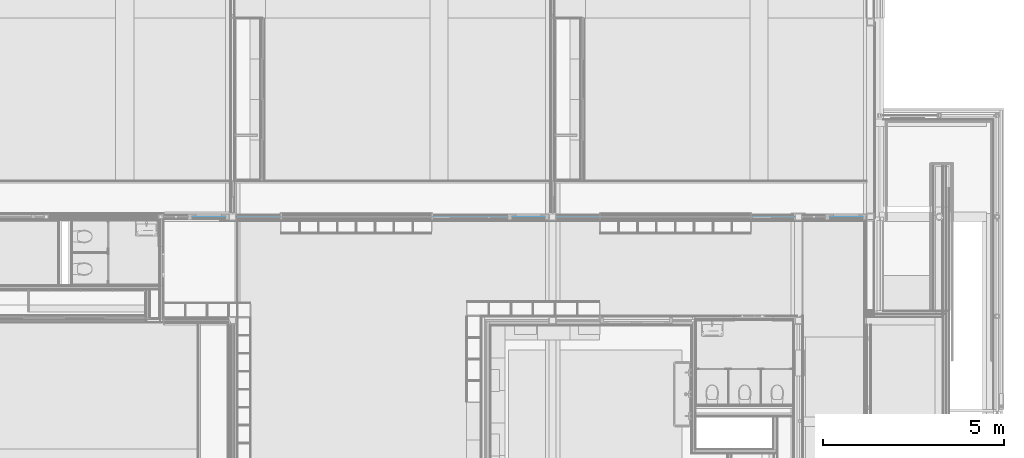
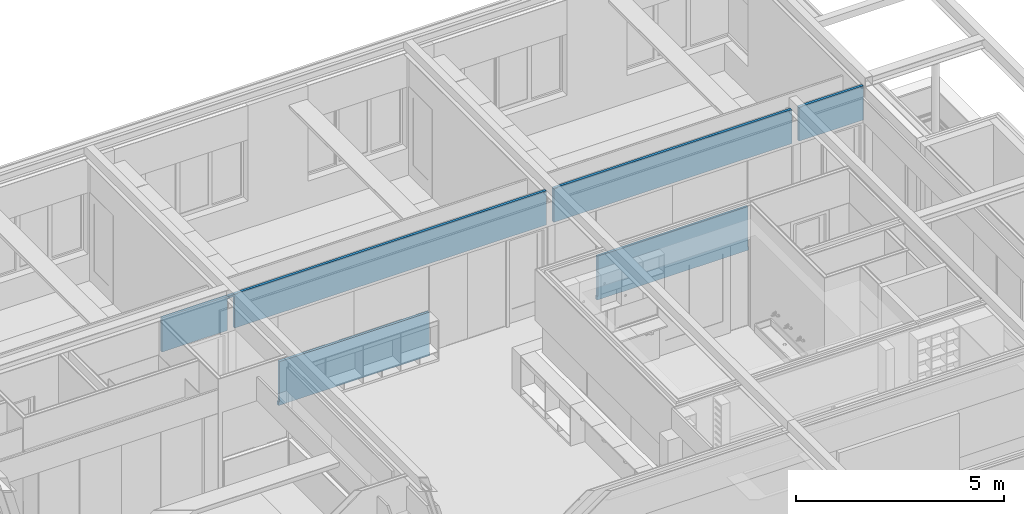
# One storey, part 49 of 137: 1 building element part, 14 openings, 1 element without a shape of its own.
"""IFC2X3 building model written with IfcOpenShell, lengths in millimetres."""

from ifc_helpers import new_model, entity, si_unit, converted_unit, derived_unit, money_unit, direction, frame, origin_with_axes, place, context, subcontext, project, spatial, faceted_brep, material, type_object, element, aggregate, save


model = new_model("IFC2X3")

# Units and contexts
model_context = context("Model", 3, precision=0.01, world=origin_with_axes(), true_north=direction((0.0, 1.0)))
body_context = subcontext(model_context, "Body", "Model", "MODEL_VIEW")
ifc_project = project(units=[si_unit("LENGTHUNIT", "METRE", prefix="MILLI"), si_unit("AREAUNIT", "SQUARE_METRE"), si_unit("VOLUMEUNIT", "CUBIC_METRE"), converted_unit("PLANEANGLEUNIT", "DEGREE", entity("IfcPlaneAngleMeasure", 0.0174532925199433), si_unit("PLANEANGLEUNIT", "RADIAN"), dimensions=[0, 0, 0, 0, 0, 0, 0]), money_unit("EUR"), converted_unit("TIMEUNIT", "Year", entity("IfcTimeMeasure", 31556926.0), si_unit("TIMEUNIT", "SECOND"), dimensions=[0, 0, 1, 0, 0, 0, 0]), si_unit("MASSUNIT", "GRAM", prefix="KILO"), si_unit("THERMODYNAMICTEMPERATUREUNIT", "DEGREE_CELSIUS"), si_unit("LUMINOUSINTENSITYUNIT", "LUMEN"), si_unit("ENERGYUNIT", "JOULE", prefix="MEGA"), derived_unit("THERMALCONDUCTANCEUNIT", [(si_unit("POWERUNIT", "WATT"), 1), (si_unit("LENGTHUNIT", "METRE"), -1), (si_unit("THERMODYNAMICTEMPERATUREUNIT", "KELVIN"), -1)]), derived_unit("SPECIFICHEATCAPACITYUNIT", [(si_unit("ENERGYUNIT", "JOULE"), 1), (si_unit("MASSUNIT", "GRAM", prefix="KILO"), -1), (si_unit("THERMODYNAMICTEMPERATUREUNIT", "KELVIN"), -1)]), derived_unit("MASSDENSITYUNIT", [(si_unit("MASSUNIT", "GRAM", prefix="KILO"), 1), (si_unit("VOLUMEUNIT", "CUBIC_METRE"), -1)])], contexts=[model_context])

# Site, building, storey
site_placement = place(None, origin_with_axes())
site = spatial("IfcSite", under=ifc_project, at=site_placement, Name="Site", CompositionType="ELEMENT")
building_placement = place(site_placement, origin_with_axes())
building = spatial("IfcBuilding", under=site, at=building_placement, Name="Naam gebouw", CompositionType="ELEMENT")
storey_placement = place(building_placement, frame((0.0, 0.0, 3960.0), z_axis=(0.0, 0.0, 1.0), x_axis=(1.0, 0.0, 0.0)))
storey = spatial("IfcBuildingStorey", under=building, at=storey_placement, Name="1e verdieping", CompositionType="ELEMENT", Elevation=3960.0)

# Proxy, openings, building element part
building_element_proxy_type = type_object("IfcBuildingElementProxyType", Name="22 Metal stud 125 gips 125", PredefinedType="NOTDEFINED")
proxy_placement = place(storey_placement, frame((6940.0, 22324.97621406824, -100.0000000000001), z_axis=(0.0, 0.0, 1.0), x_axis=(1.0, 0.0, 0.0)))
proxy = element("IfcBuildingElementProxy", 1, at=proxy_placement, inside=storey, type_object=building_element_proxy_type, Name="_Wand-x")
opening_1_placement = place(proxy_placement, frame((16859.99903999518, 0.0, 100.0000000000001), z_axis=(0.0, 0.0, 1.0), x_axis=(1.0, 0.0, 0.0)))
element("IfcOpeningElement", 2, at=opening_1_placement, cuts=proxy, Name="_B.01", context=body_context, shape_type="Brep", body=[
    faceted_brep([(599.9999999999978, -12.49999999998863, -100.0000000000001), (599.9999999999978, -12.49999999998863, 2600.0), (599.9999999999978, -63.49999999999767, 2600.0), (599.9999999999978, -63.49999999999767, -100.0000000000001), (599.9999999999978, 63.50000000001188, -100.0000000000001), (599.9999999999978, 63.50000000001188, 2600.0), (-599.9999999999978, -12.49999999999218, 2600.0), (-599.9999999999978, -63.50000000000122, 2600.0), (-599.9999999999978, 63.50000000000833, 2600.0), (-599.9999999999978, -63.50000000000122, -100.0000000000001), (-599.9999999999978, -12.49999999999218, -100.0000000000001), (-599.9999999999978, 63.50000000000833, -100.0000000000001)], [[[0, 1, 2, 3]], [[1, 0, 4, 5]], [[6, 7, 2, 1, 5, 8]], [[7, 9, 3, 2]], [[0, 3, 9, 10, 11, 4]], [[5, 4, 11, 8]], [[6, 10, 9, 7]], [[10, 6, 8, 11]]]),
])
opening_2_placement = place(proxy_placement, frame((11459.99903999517, 0.0, 100.0000000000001), z_axis=(0.0, 0.0, 1.0), x_axis=(1.0, 0.0, 0.0)))
element("IfcOpeningElement", 3, at=opening_2_placement, cuts=proxy, Name="_B.01", context=body_context, shape_type="Brep", body=[
    faceted_brep([(600.0000000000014, -12.49999999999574, -100.0000000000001), (600.0000000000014, -12.49999999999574, 2600.0), (600.0000000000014, -63.50000000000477, 2600.0), (600.0000000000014, -63.50000000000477, -100.0000000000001), (600.0000000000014, 63.50000000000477, -100.0000000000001), (600.0000000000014, 63.50000000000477, 2600.0), (-600.0000000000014, -12.49999999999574, 2600.0), (-600.0000000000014, -63.50000000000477, 2600.0), (-600.0000000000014, 63.50000000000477, 2600.0), (-600.0000000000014, -63.50000000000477, -100.0000000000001), (-600.0000000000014, -12.49999999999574, -100.0000000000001), (-600.0000000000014, 63.50000000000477, -100.0000000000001)], [[[0, 1, 2, 3]], [[1, 0, 4, 5]], [[6, 7, 2, 1, 5, 8]], [[7, 9, 3, 2]], [[0, 3, 9, 10, 11, 4]], [[5, 4, 11, 8]], [[6, 10, 9, 7]], [[10, 6, 8, 11]]]),
])
opening_3_placement = place(proxy_placement, frame((7954.999824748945, 0.0, 100.0000000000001), z_axis=(0.0, 0.0, 1.0), x_axis=(1.0, 0.0, 0.0)))
element("IfcOpeningElement", 4, at=opening_3_placement, cuts=proxy, Name="_B.06", context=body_context, shape_type="Brep", body=[
    faceted_brep([(524.9998247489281, -12.49999999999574, -100.0000000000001), (524.9998247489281, -12.49999999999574, 2600.0), (524.9998247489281, -63.50000000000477, 2600.0), (524.9998247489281, -63.50000000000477, -100.0000000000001), (524.9998247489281, 63.50000000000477, -100.0000000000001), (524.9998247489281, 63.50000000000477, 2600.0), (-524.9998247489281, -12.49999999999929, 2600.0), (-524.9998247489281, -63.50000000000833, 2600.0), (-524.9998247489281, 63.50000000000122, 2600.0), (-524.9998247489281, -63.50000000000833, -100.0000000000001), (-524.9998247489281, -12.49999999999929, -100.0000000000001), (-524.9998247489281, 63.50000000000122, -100.0000000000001)], [[[0, 1, 2, 3]], [[1, 0, 4, 5]], [[6, 7, 2, 1, 5, 8]], [[7, 9, 3, 2]], [[0, 3, 9, 10, 11, 4]], [[5, 4, 11, 8]], [[6, 10, 9, 7]], [[10, 6, 8, 11]]]),
])
opening_4_placement = place(proxy_placement, frame((15209.99903999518, 0.0, 1300.0), z_axis=(0.0, 0.0, 1.0), x_axis=(1.0, 0.0, 0.0)))
element("IfcOpeningElement", 5, at=opening_4_placement, cuts=proxy, Name="_C.01", context=body_context, shape_type="Brep", body=[
    faceted_brep([(1050.000000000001, -12.49999999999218, 0.0), (1050.000000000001, -12.49999999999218, 1400.0), (1050.000000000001, -63.50000000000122, 1400.0), (1050.000000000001, -63.50000000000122, 0.0), (1050.000000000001, 63.50000000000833, 0.0), (1050.000000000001, 63.50000000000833, 1400.0), (-1050.000000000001, -12.49999999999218, 1400.0), (-1050.000000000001, -63.50000000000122, 1400.0), (-1050.000000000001, 63.50000000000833, 1400.0), (-1050.000000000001, -63.50000000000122, 0.0), (-1050.000000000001, -12.49999999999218, 0.0), (-1050.000000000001, 63.50000000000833, 0.0)], [[[0, 1, 2, 3]], [[1, 0, 4, 5]], [[6, 7, 2, 1, 5, 8]], [[7, 9, 3, 2]], [[0, 3, 9, 10, 11, 4]], [[5, 4, 11, 8]], [[6, 10, 9, 7]], [[10, 6, 8, 11]]]),
])
opening_5_placement = place(proxy_placement, frame((2620.000000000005, 0.0, 100.0000000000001), z_axis=(0.0, 0.0, 1.0), x_axis=(1.0, 0.0, 0.0)))
element("IfcOpeningElement", 6, at=opening_5_placement, cuts=proxy, Name="_B.03", context=body_context, shape_type="Brep", body=[
    faceted_brep([(610.0000000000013, -12.49999999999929, -100.0000000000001), (610.0000000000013, -12.49999999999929, 2600.0), (610.0000000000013, -63.50000000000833, 2600.0), (610.0000000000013, -63.50000000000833, -100.0000000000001), (610.0000000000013, 63.50000000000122, -100.0000000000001), (610.0000000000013, 63.50000000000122, 2600.0), (-610.0000000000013, -12.49999999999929, 2600.0), (-610.0000000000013, -63.50000000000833, 2600.0), (-610.0000000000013, 63.50000000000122, 2600.0), (-610.0000000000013, -63.50000000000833, -100.0000000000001), (-610.0000000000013, -12.49999999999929, -100.0000000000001), (-610.0000000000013, 63.50000000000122, -100.0000000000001)], [[[0, 1, 2, 3]], [[1, 0, 4, 5]], [[6, 7, 2, 1, 5, 8]], [[7, 9, 3, 2]], [[0, 3, 9, 10, 11, 4]], [[5, 4, 11, 8]], [[6, 10, 9, 7]], [[10, 6, 8, 11]]]),
])
opening_6_placement = place(proxy_placement, frame((6380.000000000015, 0.0, 1300.0), z_axis=(0.0, 0.0, 1.0), x_axis=(1.0, 0.0, 0.0)))
element("IfcOpeningElement", 7, at=opening_6_placement, cuts=proxy, Name="_C.01", context=body_context, shape_type="Brep", body=[
    faceted_brep([(1050.000000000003, -12.49999999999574, 0.0), (1050.000000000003, -12.49999999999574, 1400.0), (1050.000000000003, -63.50000000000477, 1400.0), (1050.000000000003, -63.50000000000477, 0.0), (1050.000000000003, 63.50000000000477, 0.0), (1050.000000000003, 63.50000000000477, 1400.0), (-1050.000000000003, -12.49999999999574, 1400.0), (-1050.000000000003, -63.50000000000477, 1400.0), (-1050.000000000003, 63.50000000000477, 1400.0), (-1050.000000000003, -63.50000000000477, 0.0), (-1050.000000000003, -12.49999999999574, 0.0), (-1050.000000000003, 63.50000000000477, 0.0)], [[[0, 1, 2, 3]], [[1, 0, 4, 5]], [[6, 7, 2, 1, 5, 8]], [[7, 9, 3, 2]], [[0, 3, 9, 10, 11, 4]], [[5, 4, 11, 8]], [[6, 10, 9, 7]], [[10, 6, 8, 11]]]),
])
opening_7_placement = place(proxy_placement, frame((4279.999712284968, 0.0, 1300.0), z_axis=(0.0, 0.0, 1.0), x_axis=(1.0, 0.0, 0.0)))
element("IfcOpeningElement", 8, at=opening_7_placement, cuts=proxy, Name="_C.01", context=body_context, shape_type="Brep", body=[
    faceted_brep([(1049.999712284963, -12.49999999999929, 0.0), (1049.999712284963, -12.49999999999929, 1400.0), (1049.999712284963, -63.50000000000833, 1400.0), (1049.999712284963, -63.50000000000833, 0.0), (1049.999712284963, 63.50000000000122, 0.0), (1049.999712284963, 63.50000000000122, 1400.0), (-1049.999712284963, -12.49999999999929, 1400.0), (-1049.999712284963, -63.50000000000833, 1400.0), (-1049.999712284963, 63.50000000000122, 1400.0), (-1049.999712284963, -63.50000000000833, 0.0), (-1049.999712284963, -12.49999999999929, 0.0), (-1049.999712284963, 63.50000000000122, 0.0)], [[[0, 1, 2, 3]], [[1, 0, 4, 5]], [[6, 7, 2, 1, 5, 8]], [[7, 9, 3, 2]], [[0, 3, 9, 10, 11, 4]], [[5, 4, 11, 8]], [[6, 10, 9, 7]], [[10, 6, 8, 11]]]),
])
opening_8_placement = place(proxy_placement, frame((9004.999474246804, 0.0, 100.0000000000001), z_axis=(0.0, 0.0, 1.0), x_axis=(1.0, 0.0, 0.0)))
element("IfcOpeningElement", 9, at=opening_8_placement, cuts=proxy, Name="_B.06", context=body_context, shape_type="Brep", body=[
    faceted_brep([(524.9998247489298, -12.49999999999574, -100.0000000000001), (524.9998247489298, -12.49999999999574, 2600.0), (524.9998247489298, -63.50000000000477, 2600.0), (524.9998247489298, -63.50000000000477, -100.0000000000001), (524.9998247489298, 63.50000000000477, -100.0000000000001), (524.9998247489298, 63.50000000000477, 2600.0), (-524.9998247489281, -12.49999999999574, 2600.0), (-524.9998247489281, -63.50000000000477, 2600.0), (-524.9998247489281, 63.50000000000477, 2600.0), (-524.9998247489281, -63.50000000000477, -100.0000000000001), (-524.9998247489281, -12.49999999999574, -100.0000000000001), (-524.9998247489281, 63.50000000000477, -100.0000000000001)], [[[0, 1, 2, 3]], [[1, 0, 4, 5]], [[6, 7, 2, 1, 5, 8]], [[7, 9, 3, 2]], [[0, 3, 9, 10, 11, 4]], [[5, 4, 11, 8]], [[6, 10, 9, 7]], [[10, 6, 8, 11]]]),
])
opening_9_placement = place(proxy_placement, frame((17987.99950490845, 0.0, 100.0000000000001), z_axis=(0.0, 0.0, 1.0), x_axis=(1.0, 0.0, 0.0)))
element("IfcOpeningElement", 10, at=opening_9_placement, cuts=proxy, Name="_B.09", context=body_context, shape_type="Brep", body=[
    faceted_brep([(-328.0004950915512, 12.50000000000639, -100.0000000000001), (-328.0004950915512, 12.50000000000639, 2600.0), (-328.0004950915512, 63.50000000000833, 2600.0), (-328.0004950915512, 63.50000000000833, -100.0000000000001), (-328.0004950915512, -63.50000000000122, -100.0000000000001), (-328.0004950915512, -63.50000000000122, 2600.0), (328.0004950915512, 12.50000000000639, 2600.0), (328.0004950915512, 63.50000000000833, 2600.0), (328.0004950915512, -63.50000000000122, 2600.0), (328.0004950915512, 63.50000000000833, -100.0000000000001), (328.0004950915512, 12.50000000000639, -100.0000000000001), (328.0004950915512, -63.50000000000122, -100.0000000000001)], [[[0, 1, 2, 3]], [[1, 0, 4, 5]], [[6, 7, 2, 1, 5, 8]], [[7, 9, 3, 2]], [[0, 3, 9, 10, 11, 4]], [[5, 4, 11, 8]], [[6, 10, 9, 7]], [[10, 6, 8, 11]]]),
])
opening_10_placement = place(proxy_placement, frame((18881.0, 0.0, 100.0000000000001), z_axis=(0.0, 0.0, 1.0), x_axis=(1.0, 0.0, 0.0)))
element("IfcOpeningElement", 11, at=opening_10_placement, cuts=proxy, Name="_01.01", context=body_context, shape_type="Brep", body=[
    faceted_brep([(-565.0000000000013, -63.50000000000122, 2600.0), (-565.0000000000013, -63.50000000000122, -100.0000000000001), (565.0000000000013, -63.50000000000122, -100.0000000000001), (565.0000000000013, -63.50000000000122, 2600.0), (-565.0000000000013, 63.50000000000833, 2600.0), (-565.0000000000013, 63.50000000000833, -100.0000000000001), (565.0000000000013, 63.50000000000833, -100.0000000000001), (565.0000000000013, 63.50000000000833, 2600.0)], [[[0, 1, 2, 3]], [[4, 5, 1, 0]], [[5, 6, 2, 1]], [[6, 7, 3, 2]], [[7, 4, 0, 3]], [[6, 5, 4, 7]]]),
])
opening_11_placement = place(proxy_placement, frame((339.9999604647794, 0.0, 100.0000000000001), z_axis=(0.0, 0.0, 1.0), x_axis=(1.0, 0.0, 0.0)))
element("IfcOpeningElement", 12, at=opening_11_placement, cuts=proxy, Name="_B.07", context=body_context, shape_type="Brep", body=[
    faceted_brep([(-339.9999604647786, 12.49999999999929, -100.0000000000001), (-339.9999604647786, 12.49999999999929, 2600.0), (-339.9999604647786, 63.50000000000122, 2600.0), (-339.9999604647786, 63.50000000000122, -100.0000000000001), (-339.9999604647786, -63.50000000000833, -100.0000000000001), (-339.9999604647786, -63.50000000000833, 2600.0), (339.9999604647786, 12.49999999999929, 2600.0), (339.9999604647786, 63.50000000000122, 2600.0), (339.9999604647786, -63.50000000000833, 2600.0), (339.9999604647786, 63.50000000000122, -100.0000000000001), (339.9999604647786, 12.49999999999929, -100.0000000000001), (339.9999604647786, -63.50000000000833, -100.0000000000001)], [[[0, 1, 2, 3]], [[1, 0, 4, 5]], [[6, 7, 2, 1, 5, 8]], [[7, 9, 3, 2]], [[0, 3, 9, 10, 11, 4]], [[5, 4, 11, 8]], [[6, 10, 9, 7]], [[10, 6, 8, 11]]]),
])
opening_12_placement = place(proxy_placement, frame((10094.99929899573, 0.0, 100.0000000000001), z_axis=(0.0, 0.0, 1.0), x_axis=(1.0, 0.0, 0.0)))
element("IfcOpeningElement", 13, at=opening_12_placement, cuts=proxy, Name="_01.01", context=body_context, shape_type="Brep", body=[
    faceted_brep([(-565.0000000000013, -63.50000000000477, 2600.0), (-565.0000000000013, -63.50000000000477, -100.0000000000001), (565.0000000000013, -63.50000000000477, -100.0000000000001), (565.0000000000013, -63.50000000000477, 2600.0), (-565.0000000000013, 63.50000000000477, 2600.0), (-565.0000000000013, 63.50000000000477, -100.0000000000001), (565.0000000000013, 63.50000000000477, -100.0000000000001), (565.0000000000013, 63.50000000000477, 2600.0)], [[[0, 1, 2, 3]], [[4, 5, 1, 0]], [[5, 6, 2, 1]], [[6, 7, 3, 2]], [[7, 4, 0, 3]], [[6, 5, 4, 7]]]),
])
opening_13_placement = place(proxy_placement, frame((13109.99903999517, 0.0, 1300.0), z_axis=(0.0, 0.0, 1.0), x_axis=(1.0, 0.0, 0.0)))
element("IfcOpeningElement", 14, at=opening_13_placement, cuts=proxy, Name="_C.01", context=body_context, shape_type="Brep", body=[
    faceted_brep([(1050.000000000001, -12.49999999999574, 0.0), (1050.000000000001, -12.49999999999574, 1400.0), (1050.000000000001, -63.50000000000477, 1400.0), (1050.000000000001, -63.50000000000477, 0.0), (1050.000000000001, 63.50000000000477, 0.0), (1050.000000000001, 63.50000000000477, 1400.0), (-1050.000000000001, -12.49999999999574, 1400.0), (-1050.000000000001, -63.50000000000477, 1400.0), (-1050.000000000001, 63.50000000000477, 1400.0), (-1050.000000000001, -63.50000000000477, 0.0), (-1050.000000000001, -12.49999999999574, 0.0), (-1050.000000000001, 63.50000000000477, 0.0)], [[[0, 1, 2, 3]], [[1, 0, 4, 5]], [[6, 7, 2, 1, 5, 8]], [[7, 9, 3, 2]], [[0, 3, 9, 10, 11, 4]], [[5, 4, 11, 8]], [[6, 10, 9, 7]], [[10, 6, 8, 11]]]),
])
opening_14_placement = place(proxy_placement, frame((1244.999920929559, 0.0, 100.0000000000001), z_axis=(0.0, 0.0, 1.0), x_axis=(1.0, 0.0, 0.0)))
element("IfcOpeningElement", 15, at=opening_14_placement, cuts=proxy, Name="_01.01", context=body_context, shape_type="Brep", body=[
    faceted_brep([(-564.9999999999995, -63.50000000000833, 2600.0), (-564.9999999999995, -63.50000000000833, -100.0000000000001), (564.9999999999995, -63.50000000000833, -100.0000000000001), (564.9999999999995, -63.50000000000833, 2600.0), (-564.9999999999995, 63.50000000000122, 2600.0), (-564.9999999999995, 63.50000000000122, -100.0000000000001), (564.9999999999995, 63.50000000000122, -100.0000000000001), (564.9999999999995, 63.50000000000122, 2600.0)], [[[0, 1, 2, 3]], [[4, 5, 1, 0]], [[5, 6, 2, 1]], [[6, 7, 3, 2]], [[7, 4, 0, 3]], [[6, 5, 4, 7]]]),
])
ifc_material = material(Name="ALG - LICHTE SCHEIDINGSWAND")
building_element_part_placement = place(proxy_placement, origin_with_axes())
building_element_part = element("IfcBuildingElementPart", 16, at=building_element_part_placement, material=ifc_material, Name="ALG - LICHTE SCHEIDINGSWAND", context=body_context, shape_type="Brep", body=[
    faceted_brep([(16239.9990399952, 37.50000000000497, 1280.000000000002), (16239.9990399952, 37.50000000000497, 100.0000000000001), (16259.99903999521, 37.50000000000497, 100.0000000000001), (16259.99903999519, 37.50000000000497, 0.0), (12059.99903999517, 37.50000000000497, 0.0), (12059.99899233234, 37.50000000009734, 100.0000000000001), (12079.99899233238, 37.50000000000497, 100.0000000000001), (12079.99899233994, 37.50000000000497, 1280.000000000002), (16239.9990399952, -37.49999999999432, 1280.000000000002), (16239.9990399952, -37.49999999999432, 100.0000000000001), (16259.99903999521, -37.49999999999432, 100.0000000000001), (16259.99903999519, -37.49999999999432, 0.0), (12059.99903999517, -37.49999999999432, 0.0), (12059.99884937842, -37.49999999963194, 100.0000000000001), (12079.99884937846, -37.49999999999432, 100.0000000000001), (12079.99884938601, -37.49999999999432, 1280.000000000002)], [[[0, 1, 2, 3, 4, 5, 6, 7]], [[1, 0, 8, 9]], [[10, 2, 1, 9]], [[2, 10, 11, 3]], [[3, 11, 12, 4]], [[4, 12, 13, 5]], [[13, 14, 6, 5]], [[14, 15, 7, 6]], [[8, 0, 7, 15]], [[9, 8, 15, 14, 13, 12, 11, 10]]]),
    faceted_brep([(17459.99903999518, 37.50000000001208, 2700.0), (17459.99903999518, -37.49999999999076, 2700.0), (10859.99903999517, -37.49999999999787, 2700.0), (10859.99903999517, 37.50000000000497, 2700.0), (17459.99903999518, 37.50000000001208, 3685.000029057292), (17459.99903999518, -37.49999999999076, 3685.000029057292), (10959.99942456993, -37.49999999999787, 3695.000029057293), (10959.99942456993, -37.49999999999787, 3675.000029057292), (10859.99942456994, -37.49999999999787, 3675.000029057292), (17359.99903999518, -37.49999999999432, 3685.000029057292), (17359.99903999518, -37.49999999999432, 3695.000029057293), (17458.99903999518, -37.49999999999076, 3695.000029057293), (17458.99903999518, -37.49999999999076, 3700.0), (10860.99942456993, -37.49999999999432, 3700.0), (10860.99942456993, -37.49999999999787, 3695.000029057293), (10859.99942456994, 37.50000000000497, 3675.000029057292), (10959.99942456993, 37.50000000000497, 3675.000029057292), (10959.99942456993, 37.50000000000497, 3695.000029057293), (10860.99942456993, 37.50000000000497, 3695.000029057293), (10860.99942456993, 37.50000000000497, 3700.0), (17458.99903999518, 37.50000000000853, 3700.0), (17458.99903999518, 37.50000000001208, 3695.000029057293), (17359.99903999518, 37.50000000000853, 3695.000029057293), (17359.99903999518, 37.50000000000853, 3685.000029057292)], [[[0, 1, 2, 3]], [[4, 5, 1, 0]], [[6, 7, 8, 2, 1, 5, 9, 10, 11, 12, 13, 14]], [[15, 3, 2, 8]], [[0, 3, 15, 16, 17, 18, 19, 20, 21, 22, 23, 4]], [[9, 5, 4, 23]], [[7, 6, 17, 16]], [[16, 15, 8, 7]], [[10, 9, 23, 22]], [[11, 10, 22, 21]], [[12, 11, 21, 20]], [[19, 13, 12, 20]], [[18, 14, 13, 19]], [[6, 14, 18, 17]]]),
    faceted_brep([(3229.999952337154, 37.500000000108, 100.0000000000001), (3249.999952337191, 37.50000000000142, 100.0000000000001), (3249.999952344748, 37.50000000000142, 1280.000000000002), (7410.000000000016, 37.50000000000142, 1280.000000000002), (7410.000000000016, 37.50000000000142, 100.0000000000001), (7430.000000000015, 37.50000000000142, 100.0000000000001), (7430.000000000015, 37.50000000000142, 0.0), (3230.000000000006, 37.50000000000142, 0.0), (3229.99980938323, -37.49999999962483, 100.0000000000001), (3249.999809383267, -37.50000000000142, 100.0000000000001), (3249.999809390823, -37.50000000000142, 1280.000000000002), (7410.000000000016, -37.50000000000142, 1280.000000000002), (7410.000000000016, -37.50000000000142, 100.0000000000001), (7430.000000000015, -37.49999999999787, 100.0000000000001), (7430.000000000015, -37.49999999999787, 0.0), (3230.000000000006, -37.50000000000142, 0.0)], [[[0, 1, 2, 3, 4, 5, 6, 7]], [[1, 0, 8, 9]], [[10, 2, 1, 9]], [[2, 10, 11, 3]], [[4, 3, 11, 12]], [[4, 12, 13, 5]], [[14, 6, 5, 13]], [[6, 14, 15, 7]], [[8, 0, 7, 15]], [[9, 8, 15, 14, 13, 12, 11, 10]]]),
    faceted_brep([(1810.000000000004, -37.49999999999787, 3630.0), (1809.999920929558, -37.49999999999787, 2700.0), (1809.999920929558, 37.50000000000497, 2700.0), (1810.000000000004, 37.50000000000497, 3630.0), (0.0, -37.50000000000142, 2700.0), (2010.000000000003, -37.49999999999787, 3630.0), (2010.000000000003, -37.49999999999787, 2700.0), (10659.99929899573, -37.49999999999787, 2700.0), (10659.99942456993, -37.49999999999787, 3675.000029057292), (10559.99942456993, -37.49999999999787, 3675.000029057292), (10559.99942456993, -37.49999999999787, 3695.000029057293), (10658.99942456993, -37.49999999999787, 3695.000029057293), (10658.99942456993, -37.49999999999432, 3700.0), (2011.006882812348, -37.50000000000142, 3700.0), (2011.006882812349, -37.50000000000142, 3695.000002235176), (2110.006882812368, -37.49999999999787, 3695.000002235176), (2110.006882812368, -37.49999999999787, 3683.000002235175), (1710.006882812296, -37.50000000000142, 3683.000002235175), (1710.006882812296, -37.50000000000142, 3695.000002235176), (1809.006882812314, -37.50000000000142, 3695.000002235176), (1809.006882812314, -37.50000000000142, 3700.0), (0.0, -37.50000000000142, 3700.0), (0.0, 37.50000000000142, 2700.0), (0.0, -19.99999999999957, 2700.0), (0.0, 37.50000000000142, 3700.0), (1809.006927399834, 37.50000000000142, 3700.0), (1809.006927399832, 37.50000000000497, 3695.000002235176), (1710.006927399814, 37.50000000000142, 3695.000002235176), (1710.006927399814, 37.50000000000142, 3683.000002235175), (2110.006927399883, 37.50000000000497, 3683.000002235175), (2110.006927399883, 37.50000000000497, 3695.000002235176), (2011.006927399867, 37.50000000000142, 3695.000002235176), (2011.006927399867, 37.50000000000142, 3700.0), (10658.99942456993, 37.50000000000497, 3700.0), (10658.99942456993, 37.50000000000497, 3695.000029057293), (10559.99942456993, 37.50000000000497, 3695.000029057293), (10559.99942456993, 37.50000000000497, 3675.000029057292), (10659.99942456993, 37.50000000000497, 3675.000029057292), (10659.99929899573, 37.50000000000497, 2700.0), (2010.000000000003, 37.50000000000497, 2700.0), (2010.000000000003, 37.50000000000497, 3630.0), (0.0, -19.99999999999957, 3700.0)], [[[0, 1, 2, 3]], [[4, 1, 0, 5, 6, 7, 8, 9, 10, 11, 12, 13, 14, 15, 16, 17, 18, 19, 20, 21]], [[22, 2, 1, 4, 23]], [[3, 2, 22, 24, 25, 26, 27, 28, 29, 30, 31, 32, 33, 34, 35, 36, 37, 38, 39, 40]], [[0, 3, 40, 5]], [[6, 5, 40, 39]], [[38, 7, 6, 39]], [[7, 38, 37, 8]], [[37, 36, 9, 8]], [[36, 35, 10, 9]], [[35, 34, 11, 10]], [[34, 33, 12, 11]], [[32, 13, 12, 33]], [[13, 32, 31, 14]], [[31, 30, 15, 14]], [[30, 29, 16, 15]], [[29, 28, 17, 16]], [[28, 27, 18, 17]], [[27, 26, 19, 18]], [[26, 25, 20, 19]], [[25, 24, 41, 21, 20]], [[4, 21, 41, 23]], [[41, 24, 22, 23]]]),
    faceted_brep([(2005.006927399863, 37.50000000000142, 3700.0), (1815.006927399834, 37.50000000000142, 3700.0), (1815.006882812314, -37.50000000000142, 3700.0), (2005.006882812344, -37.50000000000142, 3700.0), (2005.006927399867, 37.50000000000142, 3695.000002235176), (1815.006927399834, 37.50000000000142, 3695.000002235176), (1815.006882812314, -37.50000000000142, 3695.000002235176), (2005.006882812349, -37.50000000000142, 3695.000002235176)], [[[0, 1, 2, 3]], [[4, 5, 1, 0]], [[6, 2, 1, 5]], [[6, 7, 3, 2]], [[7, 4, 0, 3]], [[6, 5, 4, 7]]]),
    faceted_brep([(19446.0, -37.49999999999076, 2700.0), (19446.0, 37.50000000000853, 2700.0), (19446.0, 37.50000000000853, 3683.0), (19446.0, -37.49999999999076, 3683.0), (18316.0, 37.50000000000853, 2700.0), (18316.0, -37.49999999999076, 2700.0), (17659.9990098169, -37.49999999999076, 2700.0), (17659.9990098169, 37.50000000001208, 2700.0), (17659.99903999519, 37.50000000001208, 3685.000029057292), (17759.99903999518, 37.50000000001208, 3685.000029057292), (17759.99903999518, 37.50000000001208, 3695.000029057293), (17660.99903999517, 37.50000000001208, 3695.000029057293), (17660.99903663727, 37.50000000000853, 3700.0), (19446.0, 37.50000000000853, 3700.0), (19446.0, 37.50000000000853, 3695.000000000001), (19360.99999552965, 37.50000000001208, 3695.000000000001), (19360.99999552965, 37.50000000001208, 3683.0), (19360.99999552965, -37.49999999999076, 3683.0), (19360.99999552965, -37.49999999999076, 3695.000000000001), (19446.0, -37.49999999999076, 3695.000000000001), (19446.0, -37.49999999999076, 3700.0), (17660.99903663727, -37.49999999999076, 3700.0), (17660.99903999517, -37.49999999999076, 3695.000029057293), (17759.99903999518, -37.49999999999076, 3695.000029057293), (17759.99903999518, -37.49999999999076, 3685.000029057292), (17659.99903999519, -37.49999999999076, 3685.000029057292)], [[[0, 1, 2, 3]], [[4, 1, 0, 5, 6, 7]], [[1, 4, 7, 8, 9, 10, 11, 12, 13, 14, 15, 16, 2]], [[16, 17, 3, 2]], [[5, 0, 3, 17, 18, 19, 20, 21, 22, 23, 24, 25, 6]], [[25, 8, 7, 6]], [[9, 8, 25, 24]], [[24, 23, 10, 9]], [[23, 22, 11, 10]], [[11, 22, 21, 12]], [[20, 13, 12, 21]], [[13, 20, 19, 14]], [[19, 18, 15, 14]], [[18, 17, 16, 15]]]),
])
aggregate(proxy, [building_element_part])

save(model, "model.ifc")
